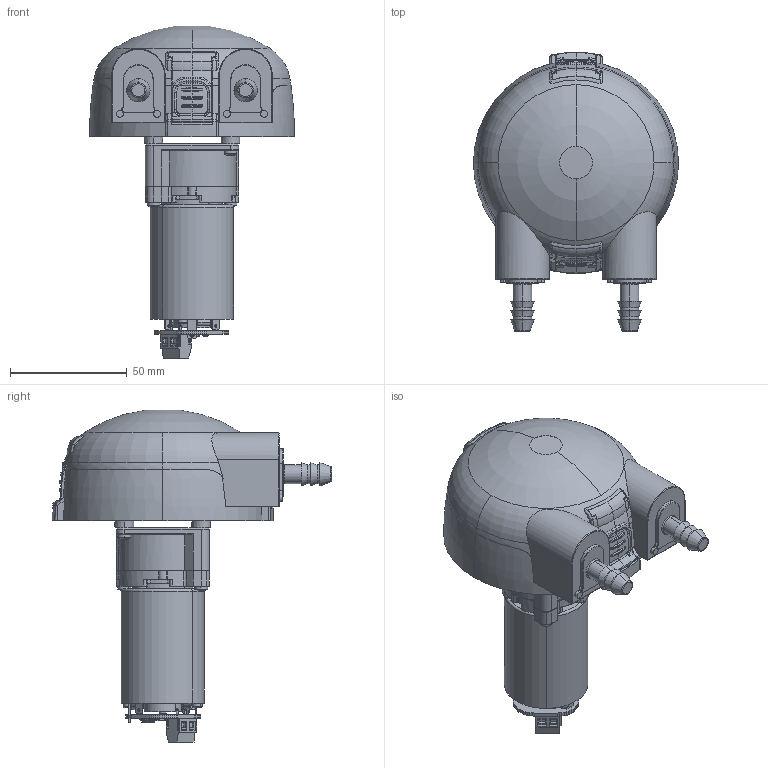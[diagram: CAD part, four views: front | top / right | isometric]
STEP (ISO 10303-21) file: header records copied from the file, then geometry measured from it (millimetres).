
FILE_DESCRIPTION (( 'STEP AP214' ), '1' );
FILE_NAME ('PMP-L.STEP', '2021-08-03T16:46:05', ( '' ), ( '' ), 'SwSTEP 2.0', 'SolidWorks 2020', '' );
FILE_SCHEMA (( 'AUTOMOTIVE_DESIGN' ));
Length unit declared in the file: millimetre
Products named in the file (9): Board_circuit.step; PMP-L; RGB-LED2.step; res_0402.step; circuit.step; qfn-28_6x6x0.65.step; 2P_screw_terminal.step; WP12-P8AA-T8F-BOP; soic-8ep_150mil.step
Assembly tree (18 placements, depth 3):
  PMP-L
    WP12-P8AA-T8F-BOP
    circuit.step
      Board_circuit.step
      2P_screw_terminal.step
      RGB-LED2.step
      soic-8ep_150mil.step
      res_0402.step  x11
      qfn-28_6x6x0.65.step
Bounding box: 88 x 119.82 x 142.49 mm (x, y, z)
Volume: 339716.9 mm3; surface area: 46091.4 mm2
Topology: 16 solids, 94 shells, 5422 faces, 9914 edges, 4658 vertices
Faces by surface type: plane 4440, cylinder 363, bspline 314, torus 145, cone 124, sphere 36
Entity records: 133318 total; most frequent: CARTESIAN_POINT 52277, ORIENTED_EDGE 16008, DIRECTION 11755, EDGE_CURVE 8044, B_SPLINE_CURVE_WITH_KNOTS 5054, AXIS2_PLACEMENT_3D 5008, EDGE_LOOP 4322, FACE_OUTER_BOUND 4182
